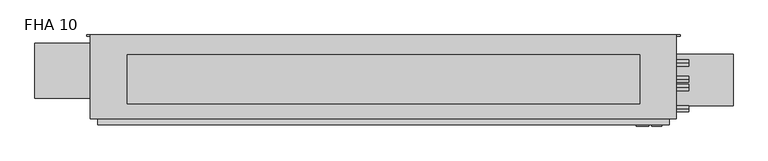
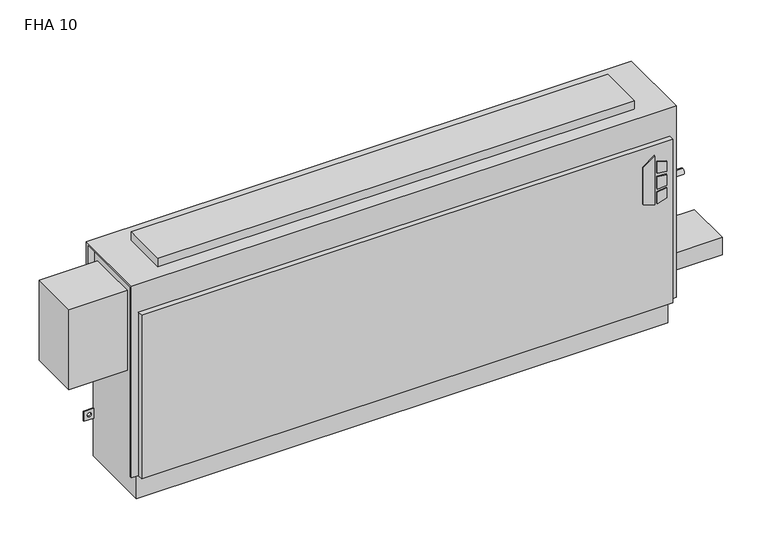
"""IFC4 building model written with IfcOpenShell, lengths in millimetres: proxy geometry, Vertical_Fan_Coil_Unit_-_FHA_-_IEC_-_4-Pipe_TS-FR_RH_2022 : FHA 10."""

import ifcopenshell
import ifcopenshell.guid

model = None  # the IFC model being written
_history = None  # IfcOwnerHistory: only IFC2X3 demands one
_inside = {}  # id of a spatial element -> (the spatial element, [elements in it])
_under = {}  # id of a project, library or spatial element -> (it, [spatial elements below it])
_declared = {}  # id of a project -> (the project, [libraries it declares])
_typed = {}  # id of a type object -> (the type object, [elements of that type])
_made_of = {}  # id of a material, layer set ... -> (it, [elements and type objects made of it])


def new_model(schema):
    """Start an empty IFC model of exactly this schema.

    Asked for "IFC4X3", IfcOpenShell would pick the latest addendum, in which some entities
    have other attributes; the version numbers below select the first issue.
    IFC2X3 requires an IfcOwnerHistory on every rooted entity: one is made here for all.
    """
    global model, _history
    if schema == "IFC4X3":
        model = ifcopenshell.file(schema_version=(4, 3, 0, 0))
    else:
        model = ifcopenshell.file(schema=schema)
    _inside.clear()
    _under.clear()
    _declared.clear()
    _typed.clear()
    _made_of.clear()
    _history = None
    if model.schema == "IFC2X3":
        org = make("IfcOrganization", Name="unknown")
        user = make(
            "IfcPersonAndOrganization",
            ThePerson=make("IfcPerson", FamilyName="unknown"),
            TheOrganization=org,
        )
        app = make(
            "IfcApplication",
            ApplicationDeveloper=org,
            Version="unknown",
            ApplicationFullName="unknown",
            ApplicationIdentifier="unknown",
        )
        _history = make(
            "IfcOwnerHistory",
            OwningUser=user,
            OwningApplication=app,
            ChangeAction="ADDED",
            CreationDate=0,
        )
    return model


def make(cls, **values):
    """One entity of the class cls with the attributes given. An attribute that is None is left unset."""
    return model.create_entity(
        cls, **{name: value for name, value in values.items() if value is not None}
    )


def rooted(cls, **values):
    """An entity with a GlobalId (a new one), such as an element, a storey or a relation."""
    return make(cls, GlobalId=ifcopenshell.guid.new(), OwnerHistory=_history, **values)


def si_unit(unit_type, name, prefix=None):
    """IfcSIUnit, for example si_unit("LENGTHUNIT", "METRE", prefix="MILLI")."""
    return make("IfcSIUnit", UnitType=unit_type, Prefix=prefix, Name=name)


def assignment(units):
    """IfcUnitAssignment: the units of a project."""
    return None if units is None else make("IfcUnitAssignment", Units=units)


def point(xyz):
    """IfcCartesianPoint."""
    return None if xyz is None else make("IfcCartesianPoint", Coordinates=xyz)


def direction(xyz):
    """IfcDirection."""
    return None if xyz is None else make("IfcDirection", DirectionRatios=xyz)


def frame(location, z_axis=None, x_axis=None):
    """IfcAxis2Placement3D, a coordinate frame: its origin and axes. An axis left out is left unset."""
    return make(
        "IfcAxis2Placement3D",
        Location=point(location),
        Axis=direction(z_axis),
        RefDirection=direction(x_axis),
    )


def frame_2d(location, x_axis=None):
    """IfcAxis2Placement2D, a coordinate frame in the plane: its origin and x axis."""
    return make(
        "IfcAxis2Placement2D", Location=point(location), RefDirection=direction(x_axis)
    )


def origin():
    """The frame at (0, 0, 0) with its axes left unset."""
    return frame((0.0, 0.0, 0.0))


def place(relative_to, where):
    """IfcLocalPlacement: puts the frame where relative to a parent placement (None: the world)."""
    return make(
        "IfcLocalPlacement", PlacementRelTo=relative_to, RelativePlacement=where
    )


def context(
    kind, dimensions, precision=None, world=None, true_north=None, identifier=None
):
    """IfcGeometricRepresentationContext, for example the 3D "Model" context."""
    return make(
        "IfcGeometricRepresentationContext",
        ContextIdentifier=identifier,
        ContextType=kind,
        CoordinateSpaceDimension=dimensions,
        Precision=precision,
        WorldCoordinateSystem=world,
        TrueNorth=true_north,
    )


def project(units=None, contexts=None):
    """IfcProject with its units and contexts."""
    return rooted(
        "IfcProject",
        Name="project",
        RepresentationContexts=contexts,
        UnitsInContext=assignment(units),
    )


def spatial(cls, under=None, at=None, **own):
    """A site, building, storey or space (cls), placed at a placement, below another one or the project."""
    s = rooted(cls, ObjectPlacement=at, **own)
    if under is not None:
        _under.setdefault(under.id(), (under, []))[1].append(s)
    return s


def polyline(points):
    """IfcPolyline through the points."""
    return make("IfcPolyline", Points=[point(p) for p in points])


def circle_curve(where, radius):
    """IfcCircle in the frame where."""
    return make("IfcCircle", Position=where, Radius=radius)


def trimmed(basis, trim1, trim2, sense, master):
    """IfcTrimmedCurve: the piece of a basis curve between two trims."""
    return make(
        "IfcTrimmedCurve",
        BasisCurve=basis,
        Trim1=trim1,
        Trim2=trim2,
        SenseAgreement=sense,
        MasterRepresentation=master,
    )


def segment(curve, same_sense, transition):
    """IfcCompositeCurveSegment."""
    return make(
        "IfcCompositeCurveSegment",
        Transition=transition,
        SameSense=same_sense,
        ParentCurve=curve,
    )


def composite_curve(segments, self_intersect=None):
    """IfcCompositeCurve: segments joined end to end."""
    return make("IfcCompositeCurve", Segments=segments, SelfIntersect=self_intersect)


def outline(outer, holes=None, kind="AREA"):
    """IfcArbitraryClosedProfileDef: a profile drawn as a closed curve; with holes, ...WithVoids."""
    if holes is None:
        return make("IfcArbitraryClosedProfileDef", ProfileType=kind, OuterCurve=outer)
    return make(
        "IfcArbitraryProfileDefWithVoids",
        ProfileType=kind,
        OuterCurve=outer,
        InnerCurves=holes,
    )


def extrude(swept, where, along, depth):
    """IfcExtrudedAreaSolid: the profile swept, set in the frame where, extruded along a direction by depth."""
    return make(
        "IfcExtrudedAreaSolid",
        SweptArea=swept,
        Position=where,
        ExtrudedDirection=direction(along),
        Depth=depth,
    )


def shape(context_of_items, identifier, shape_type, items):
    """IfcShapeRepresentation: the items that make up one representation, for example the "Body"."""
    return make(
        "IfcShapeRepresentation",
        ContextOfItems=context_of_items,
        RepresentationIdentifier=identifier,
        RepresentationType=shape_type,
        Items=items,
    )


def source(mapping_origin, context_of_items, identifier, shape_type, items):
    """IfcRepresentationMap: a shape defined once, which mapped items show again and again."""
    return make(
        "IfcRepresentationMap",
        MappingOrigin=mapping_origin,
        MappedRepresentation=shape(context_of_items, identifier, shape_type, items),
    )


def transform(
    local_origin,
    x_axis=None,
    y_axis=None,
    z_axis=None,
    scale=None,
    scale2=None,
    scale3=None,
    uniform=True,
):
    """IfcCartesianTransformationOperator3D, or its non-uniform kind. x_axis, y_axis, z_axis: its Axis1, 2, 3."""
    if uniform:
        return make(
            "IfcCartesianTransformationOperator3D",
            Axis1=direction(x_axis),
            Axis2=direction(y_axis),
            LocalOrigin=point(local_origin),
            Scale=scale,
            Axis3=direction(z_axis),
        )
    return make(
        "IfcCartesianTransformationOperator3DnonUniform",
        Axis1=direction(x_axis),
        Axis2=direction(y_axis),
        LocalOrigin=point(local_origin),
        Scale=scale,
        Axis3=direction(z_axis),
        Scale2=scale2,
        Scale3=scale3,
    )


def mapped(mapping_source, mapping_target):
    """IfcMappedItem: shows the shape of a source again, moved by a transform."""
    return make(
        "IfcMappedItem", MappingSource=mapping_source, MappingTarget=mapping_target
    )


def made_of(thing, what):
    """Note that an element or type object is made of a material, layer set ...; save() writes the relation."""
    if what is not None:
        _made_of.setdefault(what.id(), (what, []))[1].append(thing)
    return thing


def element(
    cls,
    number,
    at=None,
    inside=None,
    cuts=None,
    type_object=None,
    material=None,
    context=None,
    identifier="Body",
    shape_type=None,
    held_by="IfcProductDefinitionShape",
    body=None,
    shapes=None,
    **own,
):
    """One element of the class cls, such as IfcWall. Its Tag is "e" and its number.

    at: its placement. inside: the storey or other place that contains it. cuts: it is an
    opening in that element (IfcRelVoidsElement). A single representation is given by context,
    identifier, shape_type and body (its items); several are given by shapes. held_by: the class
    of the entity that holds the representations. save() writes the other relations.
    """
    e = rooted(cls, Tag="e%d" % number, ObjectPlacement=at, **own)
    if body is not None:
        shapes = [shape(context, identifier, shape_type, body)]
    if shapes is not None:
        e.Representation = make(held_by, Representations=shapes)
    if inside is not None:
        _inside.setdefault(inside.id(), (inside, []))[1].append(e)
    if cuts is not None:
        rooted(
            "IfcRelVoidsElement", RelatingBuildingElement=cuts, RelatedOpeningElement=e
        )
    if type_object is not None:
        _typed.setdefault(type_object.id(), (type_object, []))[1].append(e)
    return made_of(e, material)


def aggregate(whole, parts):
    """IfcRelAggregates: a whole, such as a stair, and the parts it consists of."""
    return rooted("IfcRelAggregates", RelatingObject=whole, RelatedObjects=parts)


def save(model, path):
    """Write the relations noted so far, then the file.

    IfcRelAggregates (storeys below a building ...), IfcRelContainedInSpatialStructure (elements
    in a storey), IfcRelDefinesByType, IfcRelAssociatesMaterial and IfcRelDeclares: one each for
    every whole, place, type object, material and project.
    """
    for whole, parts in _under.values():
        aggregate(whole, parts)
    for where, things in _inside.values():
        rooted(
            "IfcRelContainedInSpatialStructure",
            RelatedElements=things,
            RelatingStructure=where,
        )
    for kind, things in _typed.values():
        rooted("IfcRelDefinesByType", RelatedObjects=things, RelatingType=kind)
    for what, things in _made_of.values():
        rooted("IfcRelAssociatesMaterial", RelatedObjects=things, RelatingMaterial=what)
    for by, libraries in _declared.values():
        rooted("IfcRelDeclares", RelatingContext=by, RelatedDefinitions=libraries)
    model.write(path)


def plane_surface(at):
    """IfcPlane: the flat surface through the origin of the frame at, square to its z axis."""
    return make("IfcPlane", Position=at)


def revolved_surface(curve, axis_point, axis_direction):
    """IfcSurfaceOfRevolution: the curve turned about the line through axis_point along axis_direction."""
    return make(
        "IfcSurfaceOfRevolution",
        SweptCurve=make("IfcArbitraryOpenProfileDef", ProfileType="CURVE", Curve=curve),
        AxisPosition=make("IfcAxis1Placement", Location=point(axis_point), Axis=direction(axis_direction)),
    )


def advanced_brep(points, edges, surfaces, faces):
    """IfcAdvancedBrep: a solid bounded by faces that lie on surfaces and meet in shared edges.

    An edge is (start, end): straight between two places in points (the first is 0);
    or (start, end, curve); or (start, end, curve, False) where it runs against its curve.
    A face is (place in surfaces, loops), or (place, loops, False) where it looks against
    its surface's normal. A loop lists edges by number (the first is 1), with a minus sign
    where the edge is run from its end to its start. The first loop is the outer one.
    """
    corners = [point(p) for p in points]
    vertices = [make("IfcVertexPoint", VertexGeometry=c) for c in corners]
    made = []
    for start, end, *more in edges:
        made.append(
            make(
                "IfcEdgeCurve",
                EdgeStart=vertices[start],
                EdgeEnd=vertices[end],
                EdgeGeometry=more[0] if more else make("IfcPolyline", Points=[corners[start], corners[end]]),
                SameSense=more[1] if len(more) > 1 else True,
            )
        )
    hull = []
    for where, loops, *sense in faces:
        bounds = []
        for j, loop in enumerate(loops):
            ring = [make("IfcOrientedEdge", EdgeElement=made[abs(k) - 1], Orientation=k > 0) for k in loop]
            bounds.append(
                make(
                    "IfcFaceOuterBound" if j == 0 else "IfcFaceBound",
                    Bound=make("IfcEdgeLoop", EdgeList=ring),
                    Orientation=True,
                )
            )
        hull.append(make("IfcAdvancedFace", Bounds=bounds, FaceSurface=surfaces[where], SameSense=sense[0] if sense else True))
    return make("IfcAdvancedBrep", Outer=make("IfcClosedShell", CfsFaces=hull))


def fha_10_7997b192(model_context):
    return source(origin(), model_context, "Body", "SolidModel", [
        extrude(outline(polyline([(391.6086829, 804.9368862), (381.6606126, 837.1102728), (523.831537, 837.1102728), (500.8095309, 804.9368862), (391.6086829, 804.9368862)])), frame((0.0, 9.525, 0.0), z_axis=(0.0, 1.0, 0.0), x_axis=(0.0, 0.0, 1.0)), (0.0, 0.0, 1.0), 3.175),
        extrude(outline(polyline([(470.6079683, 843.8686058), (467.4055757, 869.95), (496.6344168, 869.95), (504.6988318, 843.8686058), (470.6079683, 843.8686058)])), frame((0.0, 9.525, 0.0), z_axis=(0.0, 1.0, 0.0), x_axis=(0.0, 0.0, 1.0)), (0.0, 0.0, 1.0), 3.175),
        extrude(outline(polyline([(418.7444414, 869.95), (415.0789404, 843.8686058), (381.6606126, 843.8686058), (390.2948498, 869.95), (418.7444414, 869.95)])), frame((0.0, 9.525, 0.0), z_axis=(0.0, 1.0, 0.0), x_axis=(0.0, 0.0, 1.0)), (0.0, 0.0, 1.0), 3.175),
        extrude(outline(polyline([(458.0596028, 869.95), (460.3414292, 843.8686058), (424.4038806, 843.8686058), (427.1451456, 869.95), (458.0596028, 869.95)])), frame((0.0, 9.525, 0.0), z_axis=(0.0, 1.0, 0.0), x_axis=(0.0, 0.0, 1.0)), (0.0, 0.0, 1.0), 3.175),
        extrude(outline(composite_curve([segment(trimmed(circle_curve(frame_2d((952.5, 128.5875)), 9.525), [point((942.975, 128.5875))], [point((962.025, 128.5875))], False, "CARTESIAN"), True, "CONTINUOUS"), segment(trimmed(circle_curve(frame_2d((952.5, 128.5875)), 9.525), [point((962.025, 128.5875))], [point((942.975, 128.5875))], False, "CARTESIAN"), True, "CONTINUOUS")], self_intersect=False)), frame((0.0, 0.0, 101.6), z_axis=(0.0, 0.0, 1.0), x_axis=(1.0, 0.0, 0.0)), (0.0, 0.0, 1.0), 25.4),
        extrude(outline(polyline([(1054.1, 195.2625), (1054.1, 61.9125), (889.0, 61.9125), (889.0, 195.2625), (1054.1, 195.2625)])), frame((0.0, 0.0, 127.0), z_axis=(0.0, 0.0, 1.0), x_axis=(1.0, 0.0, 0.0)), (0.0, 0.0, 1.0), 50.8),
        extrude(outline(polyline([(812.8, 193.675), (812.8, 66.675), (-508.0, 66.675), (-508.0, 193.675), (812.8, 193.675)])), frame((0.0, 0.0, 635.0), z_axis=(0.0, 0.0, 1.0), x_axis=(1.0, 0.0, 0.0)), (0.0, 0.0, 1.0), 25.4),
        extrude(outline(composite_curve([segment(trimmed(circle_curve(frame_2d((109.0168, 460.0194)), 7.9375), [point((109.0168, 452.0819))], [point((109.0168, 467.9569))], False, "CARTESIAN"), True, "CONTINUOUS"), segment(trimmed(circle_curve(frame_2d((109.0168, 460.0194)), 7.9375), [point((109.0168, 467.9569))], [point((109.0168, 452.0819))], False, "CARTESIAN"), True, "CONTINUOUS")], self_intersect=False)), frame((889.0, 0.0, 0.0), z_axis=(1.0, 0.0, 0.0), x_axis=(0.0, 1.0, 0.0)), (0.0, 0.0, 1.0), 50.8),
        extrude(outline(composite_curve([segment(trimmed(circle_curve(frame_2d((172.085, 460.0194)), 7.9375), [point((172.085, 452.0819))], [point((172.085, 467.9569))], False, "CARTESIAN"), True, "CONTINUOUS"), segment(trimmed(circle_curve(frame_2d((172.085, 460.0194)), 7.9375), [point((172.085, 467.9569))], [point((172.085, 452.0819))], False, "CARTESIAN"), True, "CONTINUOUS")], self_intersect=False)), frame((889.0, 0.0, 0.0), z_axis=(1.0, 0.0, 0.0), x_axis=(0.0, 1.0, 0.0)), (0.0, 0.0, 1.0), 50.8),
        extrude(outline(composite_curve([segment(trimmed(circle_curve(frame_2d((130.175, 554.99)), 7.9502), [point((130.175, 547.0398))], [point((130.175, 562.9402))], False, "CARTESIAN"), True, "CONTINUOUS"), segment(trimmed(circle_curve(frame_2d((130.175, 554.99)), 7.9502), [point((130.175, 562.9402))], [point((130.175, 547.0398))], False, "CARTESIAN"), True, "CONTINUOUS")], self_intersect=False)), frame((889.0, 0.0, 0.0), z_axis=(1.0, 0.0, 0.0), x_axis=(0.0, 1.0, 0.0)), (0.0, 0.0, 1.0), 50.8),
        extrude(outline(composite_curve([segment(trimmed(circle_curve(frame_2d((53.975, 416.56)), 7.9502), [point((53.975, 408.6098))], [point((53.975, 424.5102))], False, "CARTESIAN"), True, "CONTINUOUS"), segment(trimmed(circle_curve(frame_2d((53.975, 416.56)), 7.9502), [point((53.975, 424.5102))], [point((53.975, 408.6098))], False, "CARTESIAN"), True, "CONTINUOUS")], self_intersect=False)), frame((889.0, 0.0, 0.0), z_axis=(1.0, 0.0, 0.0), x_axis=(0.0, 1.0, 0.0)), (0.0, 0.0, 1.0), 50.8),
        extrude(outline(polyline([(-746.125, 223.266), (-584.2, 223.266), (-584.2, 81.534), (-746.125, 81.534), (-746.125, 223.266)])), frame((0.0, 0.0, 349.25), z_axis=(0.0, 0.0, 1.0), x_axis=(1.0, 0.0, 0.0)), (0.0, 0.0, 1.0), 234.95),
        advanced_brep(
        [(908.05, 244.475, 635.0), (-603.25, 244.475, 635.0), (-603.25, 28.575, 635.0), (908.05, 28.575, 635.0), (-584.2, 244.475, 0.0), (889.0, 244.475, 0.0), (889.0, 38.1, 0.0), (-584.2, 38.1, 0.0), (908.05, 244.475, 558.8), (889.0, 244.475, 558.8), (889.0, 244.475, 414.3375), (917.575, 244.475, 414.3375), (917.575, 244.475, 385.7625), (889.0, 244.475, 385.7625), (889.0, 244.475, 287.3375), (917.575, 244.475, 287.3375), (917.575, 244.475, 258.7625), (889.0, 244.475, 258.7625), (889.0, 244.475, 141.2875), (917.575, 244.475, 141.2875), (917.575, 244.475, 112.7125), (889.0, 244.475, 112.7125), (-584.2, 244.475, 112.7125), (-612.775, 244.475, 112.7125), (-612.775, 244.475, 141.2875), (-584.2, 244.475, 141.2875), (-584.2, 244.475, 258.7625), (-612.775, 244.475, 258.7625), (-612.775, 244.475, 287.3375), (-584.2, 244.475, 287.3375), (-584.2, 244.475, 385.7625), (-612.775, 244.475, 385.7625), (-612.775, 244.475, 414.3375), (-584.2, 244.475, 414.3375), (-584.2, 244.475, 558.8), (-603.25, 244.475, 558.8), (907.2626, 244.475, 127.0), (896.1374, 244.475, 127.0), (-591.3374, 244.475, 127.0), (-602.4626, 244.475, 127.0), (907.2626, 244.475, 273.05), (896.1374, 244.475, 273.05), (-591.3374, 244.475, 273.05), (-602.4626, 244.475, 273.05), (907.2626, 244.475, 400.05), (896.1374, 244.475, 400.05), (-591.3374, 244.475, 400.05), (-602.4626, 244.475, 400.05), (-603.25, 238.125, 558.8), (-603.25, 238.125, 628.65), (-603.25, 34.925, 628.65), (-603.25, 34.925, 73.025), (-603.25, 28.575, 73.025), (889.0, 12.7, 552.45), (-584.2, 12.7, 552.45), (-584.2, 12.7, 73.025), (889.0, 12.7, 73.025), (908.05, 28.575, 73.025), (908.05, 34.925, 73.025), (908.05, 34.925, 628.65), (908.05, 238.125, 628.65), (908.05, 238.125, 558.8), (-584.2, 28.575, 73.025), (-584.2, 28.575, 552.45), (889.0, 28.575, 552.45), (889.0, 28.575, 73.025), (-584.2, 34.925, 73.025), (-584.2, 38.1, 73.025), (889.0, 38.1, 73.025), (889.0, 34.925, 73.025), (889.0, 241.3, 112.7125), (889.0, 241.3, 141.2875), (889.0, 241.3, 258.7625), (889.0, 241.3, 287.3375), (889.0, 241.3, 385.7625), (889.0, 241.3, 414.3375), (889.0, 238.125, 558.8), (889.0, 238.125, 628.65), (889.0, 34.925, 628.65), (-584.2, 34.925, 628.65), (-584.2, 238.125, 628.65), (-584.2, 238.125, 558.8), (-584.2, 241.3, 414.3375), (-584.2, 241.3, 385.7625), (-584.2, 241.3, 287.3375), (-584.2, 241.3, 258.7625), (-584.2, 241.3, 141.2875), (-584.2, 241.3, 112.7125), (917.575, 241.3, 112.7125), (917.575, 241.3, 141.2875), (896.1374, 241.3, 127.0), (907.2626, 241.3, 127.0), (917.575, 241.3, 258.7625), (917.575, 241.3, 287.3375), (896.1374, 241.3, 273.05), (907.2626, 241.3, 273.05), (917.575, 241.3, 385.7625), (917.575, 241.3, 414.3375), (896.1374, 241.3, 400.05), (907.2626, 241.3, 400.05), (-612.775, 241.3, 141.2875), (-612.775, 241.3, 112.7125), (-602.4626, 241.3, 127.0), (-591.3374, 241.3, 127.0), (-612.775, 241.3, 287.3375), (-612.775, 241.3, 258.7625), (-602.4626, 241.3, 273.05), (-591.3374, 241.3, 273.05), (-612.775, 241.3, 414.3375), (-612.775, 241.3, 385.7625), (-602.4626, 241.3, 400.05), (-591.3374, 241.3, 400.05)],
        [
            (0, 1),
            (1, 2),
            (2, 3),
            (3, 0),
            (4, 5),
            (5, 6),
            (6, 7),
            (7, 4),
            (0, 8),
            (8, 9),
            (9, 10),
            (10, 11),
            (11, 12),
            (12, 13),
            (13, 14),
            (14, 15),
            (15, 16),
            (16, 17),
            (17, 18),
            (18, 19),
            (19, 20),
            (20, 21),
            (21, 5),
            (4, 22),
            (22, 23),
            (23, 24),
            (24, 25),
            (25, 26),
            (26, 27),
            (27, 28),
            (28, 29),
            (29, 30),
            (30, 31),
            (31, 32),
            (32, 33),
            (33, 34),
            (34, 35),
            (35, 1),
            (36, 37, circle_curve(frame((901.7, 244.475, 127.0), z_axis=(0.0, -1.0, 0.0), x_axis=(-1.0, 0.0, 0.0)), 5.5626)),
            (37, 36, circle_curve(frame((901.7, 244.475, 127.0), z_axis=(0.0, -1.0, 0.0), x_axis=(-1.0, 0.0, 0.0)), 5.5626)),
            (38, 39, circle_curve(frame((-596.9, 244.475, 127.0), z_axis=(0.0, -1.0, 0.0), x_axis=(-1.0, 0.0, 0.0)), 5.5626)),
            (39, 38, circle_curve(frame((-596.9, 244.475, 127.0), z_axis=(0.0, -1.0, 0.0), x_axis=(-1.0, 0.0, 0.0)), 5.5626)),
            (40, 41, circle_curve(frame((901.7, 244.475, 273.05), z_axis=(0.0, -1.0, 0.0), x_axis=(-1.0, 0.0, 0.0)), 5.5626)),
            (41, 40, circle_curve(frame((901.7, 244.475, 273.05), z_axis=(0.0, -1.0, 0.0), x_axis=(-1.0, 0.0, 0.0)), 5.5626)),
            (42, 43, circle_curve(frame((-596.9, 244.475, 273.05), z_axis=(0.0, -1.0, 0.0), x_axis=(-1.0, 0.0, 0.0)), 5.5626)),
            (43, 42, circle_curve(frame((-596.9, 244.475, 273.05), z_axis=(0.0, -1.0, 0.0), x_axis=(-1.0, 0.0, 0.0)), 5.5626)),
            (44, 45, circle_curve(frame((901.7, 244.475, 400.05), z_axis=(0.0, -1.0, 0.0), x_axis=(-1.0, 0.0, 0.0)), 5.5626)),
            (45, 44, circle_curve(frame((901.7, 244.475, 400.05), z_axis=(0.0, -1.0, 0.0), x_axis=(-1.0, 0.0, 0.0)), 5.5626)),
            (46, 47, circle_curve(frame((-596.9, 244.475, 400.05), z_axis=(0.0, -1.0, 0.0), x_axis=(-1.0, 0.0, 0.0)), 5.5626)),
            (47, 46, circle_curve(frame((-596.9, 244.475, 400.05), z_axis=(0.0, -1.0, 0.0), x_axis=(-1.0, 0.0, 0.0)), 5.5626)),
            (35, 48),
            (48, 49),
            (49, 50),
            (50, 51),
            (51, 52),
            (52, 2),
            (53, 54),
            (54, 55),
            (55, 56),
            (56, 53),
            (3, 57),
            (57, 58),
            (58, 59),
            (59, 60),
            (60, 61),
            (61, 8),
            (52, 62),
            (62, 63),
            (63, 64),
            (64, 65),
            (65, 57),
            (53, 64),
            (63, 54),
            (55, 62),
            (51, 66),
            (66, 67),
            (67, 68),
            (68, 69),
            (69, 58),
            (65, 56),
            (6, 68),
            (67, 7),
            (21, 70),
            (70, 71),
            (71, 18),
            (17, 72),
            (72, 73),
            (73, 14),
            (13, 74),
            (74, 75),
            (75, 10),
            (9, 76),
            (76, 77),
            (77, 78),
            (78, 69),
            (66, 79),
            (79, 80),
            (80, 81),
            (81, 34),
            (33, 82),
            (82, 83),
            (83, 30),
            (29, 84),
            (84, 85),
            (85, 26),
            (25, 86),
            (86, 87),
            (87, 22),
            (76, 61),
            (60, 77),
            (78, 59),
            (50, 79),
            (81, 48),
            (80, 49),
            (70, 88),
            (88, 89),
            (89, 71),
            (90, 91, circle_curve(frame((901.7, 241.3, 127.0), z_axis=(0.0, 1.0, 0.0), x_axis=(-1.0, 0.0, 0.0)), 5.5626)),
            (91, 90, circle_curve(frame((901.7, 241.3, 127.0), z_axis=(0.0, 1.0, 0.0), x_axis=(-1.0, 0.0, 0.0)), 5.5626)),
            (92, 93),
            (93, 73),
            (72, 92),
            (94, 95, circle_curve(frame((901.7, 241.3, 273.05), z_axis=(0.0, 1.0, 0.0), x_axis=(-1.0, 0.0, 0.0)), 5.5626)),
            (95, 94, circle_curve(frame((901.7, 241.3, 273.05), z_axis=(0.0, 1.0, 0.0), x_axis=(-1.0, 0.0, 0.0)), 5.5626)),
            (96, 97),
            (97, 75),
            (74, 96),
            (98, 99, circle_curve(frame((901.7, 241.3, 400.05), z_axis=(0.0, 1.0, 0.0), x_axis=(-1.0, 0.0, 0.0)), 5.5626)),
            (99, 98, circle_curve(frame((901.7, 241.3, 400.05), z_axis=(0.0, 1.0, 0.0), x_axis=(-1.0, 0.0, 0.0)), 5.5626)),
            (100, 101),
            (101, 87),
            (86, 100),
            (102, 103, circle_curve(frame((-596.9, 241.3, 127.0), z_axis=(0.0, 1.0, 0.0), x_axis=(-1.0, 0.0, 0.0)), 5.5626)),
            (103, 102, circle_curve(frame((-596.9, 241.3, 127.0), z_axis=(0.0, 1.0, 0.0), x_axis=(-1.0, 0.0, 0.0)), 5.5626)),
            (84, 104),
            (104, 105),
            (105, 85),
            (106, 107, circle_curve(frame((-596.9, 241.3, 273.05), z_axis=(0.0, 1.0, 0.0), x_axis=(-1.0, 0.0, 0.0)), 5.5626)),
            (107, 106, circle_curve(frame((-596.9, 241.3, 273.05), z_axis=(0.0, 1.0, 0.0), x_axis=(-1.0, 0.0, 0.0)), 5.5626)),
            (108, 109),
            (109, 83),
            (82, 108),
            (110, 111, circle_curve(frame((-596.9, 241.3, 400.05), z_axis=(0.0, 1.0, 0.0), x_axis=(-1.0, 0.0, 0.0)), 5.5626)),
            (111, 110, circle_curve(frame((-596.9, 241.3, 400.05), z_axis=(0.0, 1.0, 0.0), x_axis=(-1.0, 0.0, 0.0)), 5.5626)),
            (89, 19),
            (88, 20),
            (16, 92),
            (93, 15),
            (12, 96),
            (97, 11),
            (24, 100),
            (101, 23),
            (105, 27),
            (104, 28),
            (32, 108),
            (109, 31),
            (90, 37),
            (36, 91),
            (102, 39),
            (38, 103),
            (94, 41),
            (40, 95),
            (106, 43),
            (42, 107),
            (98, 45),
            (44, 99),
            (110, 47),
            (46, 111),
        ],
        [
            plane_surface(frame((-603.25, 244.475, 635.0), z_axis=(0.0, 0.0, 1.0), x_axis=(-1.0, 0.0, 0.0))),
            plane_surface(frame((-603.25, 244.475, 0.0), z_axis=(0.0, 0.0, -1.0), x_axis=(1.0, 0.0, 0.0))),
            plane_surface(frame((908.05, 244.475, 635.0), z_axis=(0.0, 1.0, 0.0), x_axis=(0.0, 0.0, -1.0))),
            plane_surface(frame((-603.25, 244.475, 635.0), z_axis=(-1.0, 0.0, 0.0), x_axis=(0.0, 0.0, -1.0))),
            plane_surface(frame((-603.25, 12.7, 635.0), z_axis=(0.0, -1.0, 0.0), x_axis=(0.0, 0.0, -1.0))),
            plane_surface(frame((908.05, 12.7, 635.0), z_axis=(1.0, 0.0, 0.0), x_axis=(0.0, 0.0, -1.0))),
            plane_surface(frame((-1060.45, 28.575, 635.0), z_axis=(0.0, -1.0, 0.0), x_axis=(1.0, 0.0, 0.0))),
            plane_surface(frame((-1060.45, 28.575, 552.45), z_axis=(0.0, 0.0, 1.0), x_axis=(1.0, 0.0, 0.0))),
            plane_surface(frame((-603.25, 12.7, 73.025), z_axis=(0.0, 0.0, -1.0), x_axis=(1.0, 0.0, 0.0))),
            plane_surface(frame((-603.25, 38.1, 73.025), z_axis=(0.0, -1.0, 0.0), x_axis=(1.0, 0.0, 0.0))),
            plane_surface(frame((889.0, 28.575, 73.025), z_axis=(1.0, 0.0, 0.0), x_axis=(0.0, -1.0, 0.0))),
            plane_surface(frame((-584.2, 28.575, 552.45), z_axis=(-1.0, 0.0, 0.0), x_axis=(0.0, -1.0, 0.0))),
            plane_surface(frame((889.0, 244.475, 0.0), z_axis=(1.0, 0.0, 0.0), x_axis=(0.0, -1.0, 0.0))),
            plane_surface(frame((-584.2, 244.475, 73.025), z_axis=(-1.0, 0.0, 0.0), x_axis=(0.0, -1.0, 0.0))),
            plane_surface(frame((889.0, 238.125, 628.65), z_axis=(0.0, -1.0, 0.0), x_axis=(1.0, 0.0, 0.0))),
            plane_surface(frame((889.0, 238.125, 558.8), z_axis=(0.0, 0.0, -1.0), x_axis=(1.0, 0.0, 0.0))),
            plane_surface(frame((889.0, 34.925, 73.025), z_axis=(0.0, 1.0, 0.0), x_axis=(1.0, 0.0, 0.0))),
            plane_surface(frame((889.0, 34.925, 628.65), z_axis=(0.0, 0.0, -1.0), x_axis=(1.0, 0.0, 0.0))),
            plane_surface(frame((-584.2, 34.925, 628.65), z_axis=(0.0, 1.0, 0.0), x_axis=(-1.0, 0.0, 0.0))),
            plane_surface(frame((-584.2, 244.475, 558.8), z_axis=(0.0, 0.0, -1.0), x_axis=(-1.0, 0.0, 0.0))),
            plane_surface(frame((-584.2, 238.125, 558.8), z_axis=(0.0, -1.0, 0.0), x_axis=(-1.0, 0.0, 0.0))),
            plane_surface(frame((-584.2, 238.125, 628.65), z_axis=(0.0, 0.0, -1.0), x_axis=(-1.0, 0.0, 0.0))),
            plane_surface(frame((917.575, 241.3, 141.2875), z_axis=(0.0, -1.0, 0.0), x_axis=(-1.0, 0.0, 0.0))),
            plane_surface(frame((889.0, 244.475, 141.2875), z_axis=(0.0, 0.0, 1.0), x_axis=(0.0, -1.0, 0.0))),
            plane_surface(frame((917.575, 244.475, 141.2875), z_axis=(1.0, 0.0, 0.0), x_axis=(0.0, -1.0, 0.0))),
            plane_surface(frame((917.575, 244.475, 112.7125), z_axis=(0.0, 0.0, -1.0), x_axis=(0.0, -1.0, 0.0))),
            plane_surface(frame((917.575, 244.475, 258.7625), z_axis=(0.0, 0.0, -1.0), x_axis=(0.0, -1.0, 0.0))),
            plane_surface(frame((889.0, 244.475, 287.3375), z_axis=(0.0, 0.0, 1.0), x_axis=(0.0, -1.0, 0.0))),
            plane_surface(frame((917.575, 244.475, 287.3375), z_axis=(1.0, 0.0, 0.0), x_axis=(0.0, -1.0, 0.0))),
            plane_surface(frame((917.575, 244.475, 385.7625), z_axis=(0.0, 0.0, -1.0), x_axis=(0.0, -1.0, 0.0))),
            plane_surface(frame((889.0, 244.475, 414.3375), z_axis=(0.0, 0.0, 1.0), x_axis=(0.0, -1.0, 0.0))),
            plane_surface(frame((917.575, 244.475, 414.3375), z_axis=(1.0, 0.0, 0.0), x_axis=(0.0, -1.0, 0.0))),
            plane_surface(frame((-612.775, 244.475, 141.2875), z_axis=(0.0, 0.0, 1.0), x_axis=(0.0, -1.0, 0.0))),
            plane_surface(frame((-584.2, 244.475, 112.7125), z_axis=(0.0, 0.0, -1.0), x_axis=(0.0, -1.0, 0.0))),
            plane_surface(frame((-612.775, 244.475, 112.7125), z_axis=(-1.0, 0.0, 0.0), x_axis=(0.0, -1.0, 0.0))),
            plane_surface(frame((-584.2, 244.475, 258.7625), z_axis=(0.0, 0.0, -1.0), x_axis=(0.0, -1.0, 0.0))),
            plane_surface(frame((-612.775, 244.475, 258.7625), z_axis=(-1.0, 0.0, 0.0), x_axis=(0.0, -1.0, 0.0))),
            plane_surface(frame((-612.775, 244.475, 287.3375), z_axis=(0.0, 0.0, 1.0), x_axis=(0.0, -1.0, 0.0))),
            plane_surface(frame((-612.775, 244.475, 414.3375), z_axis=(0.0, 0.0, 1.0), x_axis=(0.0, -1.0, 0.0))),
            plane_surface(frame((-584.2, 244.475, 385.7625), z_axis=(0.0, 0.0, -1.0), x_axis=(0.0, -1.0, 0.0))),
            plane_surface(frame((-612.775, 244.475, 385.7625), z_axis=(-1.0, 0.0, 0.0), x_axis=(0.0, -1.0, 0.0))),
            revolved_surface(polyline([(896.1374000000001, 241.3, 127.0), (896.1374000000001, 244.475, 127.0)]), (901.7, 244.475, 127.0), (0.0, -1.0, 0.0)),
            revolved_surface(polyline([(-602.4626, 241.3, 127.0), (-602.4626, 244.475, 127.0)]), (-596.9, 244.475, 127.0), (0.0, -1.0, 0.0)),
            revolved_surface(polyline([(896.1374000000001, 241.3, 273.05), (896.1374000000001, 244.475, 273.05)]), (901.7, 244.475, 273.05), (0.0, -1.0, 0.0)),
            revolved_surface(polyline([(-602.4626, 241.3, 273.05), (-602.4626, 244.475, 273.05)]), (-596.9, 244.475, 273.05), (0.0, -1.0, 0.0)),
            revolved_surface(polyline([(896.1374000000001, 241.3, 400.05), (896.1374000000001, 244.475, 400.05)]), (901.7, 244.475, 400.05), (0.0, -1.0, 0.0)),
            revolved_surface(polyline([(-602.4626, 241.3, 400.05), (-602.4626, 244.475, 400.05)]), (-596.9, 244.475, 400.05), (0.0, -1.0, 0.0)),
        ],
        [
            (0, [[1, 2, 3, 4]]),
            (1, [[5, 6, 7, 8]]),
            (2, [[-1, 9, 10, 11, 12, 13, 14, 15, 16, 17, 18, 19, 20, 21, 22, 23, -5, 24, 25, 26, 27, 28, 29, 30, 31, 32, 33, 34, 35, 36, 37, 38], [39, 40], [41, 42], [43, 44], [45, 46], [47, 48], [49, 50]]),
            (3, [[-2, -38, 51, 52, 53, 54, 55, 56]]),
            (4, [[57, 58, 59, 60]]),
            (5, [[-4, 61, 62, 63, 64, 65, 66, -9]]),
            (6, [[-3, -56, 67, 68, 69, 70, 71, -61]]),
            (7, [[-57, 72, -69, 73]]),
            (8, [[-59, 74, -67, -55, 75, 76, 77, 78, 79, -62, -71, 80]]),
            (9, [[-7, 81, -77, 82]]),
            (10, [[-70, -72, -60, -80]]),
            (11, [[-68, -74, -58, -73]]),
            (12, [[-6, -23, 83, 84, 85, -19, 86, 87, 88, -15, 89, 90, 91, -11, 92, 93, 94, 95, -78, -81]]),
            (13, [[-8, -82, -76, 96, 97, 98, 99, -36, 100, 101, 102, -32, 103, 104, 105, -28, 106, 107, 108, -24]]),
            (14, [[-93, 109, -65, 110]]),
            (15, [[-92, -10, -66, -109]]),
            (16, [[-95, 111, -63, -79]]),
            (17, [[-94, -110, -64, -111]]),
            (18, [[-96, -75, -54, 112]]),
            (19, [[-99, 113, -51, -37]]),
            (20, [[-98, 114, -52, -113]]),
            (21, [[-97, -112, -53, -114]]),
            (22, [[115, 116, 117, -84], [118, 119]]),
            (22, [[120, 121, -87, 122], [123, 124]]),
            (22, [[125, 126, -90, 127], [128, 129]]),
            (22, [[130, 131, -107, 132], [133, 134]]),
            (22, [[135, 136, 137, -104], [138, 139]]),
            (22, [[140, 141, -101, 142], [143, 144]]),
            (23, [[-117, 145, -20, -85]]),
            (24, [[-116, 146, -21, -145]]),
            (25, [[-115, -83, -22, -146]]),
            (26, [[-122, -86, -18, 147]]),
            (27, [[-121, 148, -16, -88]]),
            (28, [[-120, -147, -17, -148]]),
            (29, [[-127, -89, -14, 149]]),
            (30, [[-126, 150, -12, -91]]),
            (31, [[-125, -149, -13, -150]]),
            (32, [[-132, -106, -27, 151]]),
            (33, [[-131, 152, -25, -108]]),
            (34, [[-130, -151, -26, -152]]),
            (35, [[-137, 153, -29, -105]]),
            (36, [[-136, 154, -30, -153]]),
            (37, [[-135, -103, -31, -154]]),
            (38, [[-142, -100, -35, 155]]),
            (39, [[-141, 156, -33, -102]]),
            (40, [[-140, -155, -34, -156]]),
            (41, [[157, -39, 158, -118]]),
            (41, [[-157, -119, -158, -40]]),
            (42, [[159, -41, 160, -133]]),
            (42, [[-159, -134, -160, -42]]),
            (43, [[161, -43, 162, -123]]),
            (43, [[-161, -124, -162, -44]]),
            (44, [[163, -45, 164, -138]]),
            (44, [[-163, -139, -164, -46]]),
            (45, [[165, -47, 166, -128]]),
            (45, [[-165, -129, -166, -48]]),
            (46, [[167, -49, 168, -143]]),
            (46, [[-167, -144, -168, -50]]),
        ],
    ),
    ])


if __name__ == "__main__":
    model = new_model("IFC4")
    model_context = context("Model", 3, world=origin())
    ifc_project = project(units=[si_unit("LENGTHUNIT", "METRE", prefix="MILLI")], contexts=[model_context])
    site = spatial("IfcSite", under=ifc_project)
    building = spatial("IfcBuilding", under=site)
    placement = place(None, origin())
    fha_10_shape = fha_10_7997b192(model_context)
    element("IfcBuildingElementProxy", 1, Name="Vertical_Fan_Coil_Unit_-_FHA_-_IEC_-_4-Pipe_TS-FR_RH_2022 : FHA 10", ObjectType="Vertical_Fan_Coil_Unit_-_FHA_-_IEC_-_4-Pipe_TS-FR_RH_2022 : FHA 10", at=placement, inside=building, context=model_context, shape_type="MappedRepresentation", body=[
        mapped(fha_10_shape, transform((0.0, 0.0, 0.0), x_axis=(1.0, 0.0, 0.0), y_axis=(0.0, 1.0, 0.0), z_axis=(0.0, 0.0, 1.0))),
    ])
    save(model, "model.ifc")
